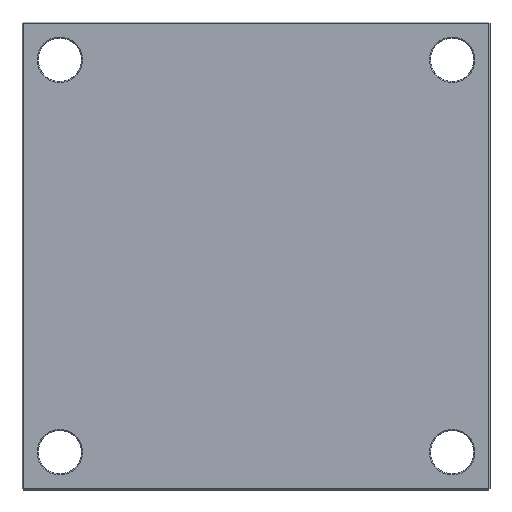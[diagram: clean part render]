
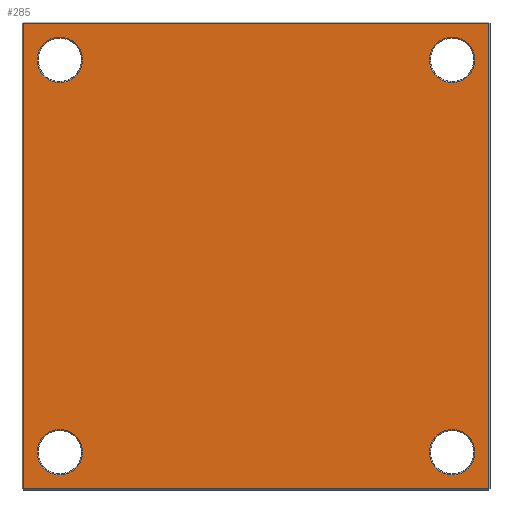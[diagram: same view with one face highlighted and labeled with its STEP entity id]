
A CAD part, front view. The second image highlights one B-rep face of the part: STEP entity #285.
In plain terms, the highlighted planar face has unit normal (0, -1, 0).
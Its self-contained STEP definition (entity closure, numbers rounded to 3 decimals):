
#16 = ORIENTED_EDGE ( 'NONE', *, *, #1422, .T. ) ;
#53 = DIRECTION ( 'NONE',  ( 0., 0., 1. ) ) ;
#55 = ORIENTED_EDGE ( 'NONE', *, *, #1409, .T. ) ;
#60 = VECTOR ( 'NONE', #1943, 1000. ) ;
#66 = DIRECTION ( 'NONE',  ( 0., 1., 0. ) ) ;
#80 = CARTESIAN_POINT ( 'NONE',  ( -187., 0., -187. ) ) ;
#82 = CARTESIAN_POINT ( 'NONE',  ( -187., 0., -208.65 ) ) ;
#98 = DIRECTION ( 'NONE',  ( 0., 1., 0. ) ) ;
#104 = FACE_OUTER_BOUND ( 'NONE', #2038, .T. ) ;
#120 = CARTESIAN_POINT ( 'NONE',  ( 187., 0., 208.65 ) ) ;
#149 = PLANE ( 'NONE',  #1969 ) ;
#156 = FACE_BOUND ( 'NONE', #1606, .T. ) ;
#164 = AXIS2_PLACEMENT_3D ( 'NONE', #1597, #1902, #1443 ) ;
#169 = DIRECTION ( 'NONE',  ( 0., 0., 1. ) ) ;
#177 = VERTEX_POINT ( 'NONE', #1369 ) ;
#201 = AXIS2_PLACEMENT_3D ( 'NONE', #1268, #1280, #1209 ) ;
#203 = ORIENTED_EDGE ( 'NONE', *, *, #1475, .T. ) ;
#234 = CARTESIAN_POINT ( 'NONE',  ( -187., 0., 187. ) ) ;
#242 = LINE ( 'NONE', #986, #2039 ) ;
#268 = ORIENTED_EDGE ( 'NONE', *, *, #800, .T. ) ;
#282 = DIRECTION ( 'NONE',  ( 0., 0., 1. ) ) ;
#284 = CARTESIAN_POINT ( 'NONE',  ( 187., 0., -165.35 ) ) ;
#285 = ADVANCED_FACE ( 'NONE', ( #156, #1576, #521, #1100, #104 ), #149, .F. ) ;
#310 = CIRCLE ( 'NONE', #592, 21.65 ) ;
#327 = EDGE_LOOP ( 'NONE', ( #1423, #55 ) ) ;
#330 = CARTESIAN_POINT ( 'NONE',  ( -187., 0., -187. ) ) ;
#336 = VERTEX_POINT ( 'NONE', #2100 ) ;
#337 = DIRECTION ( 'NONE',  ( 0., 1., 0. ) ) ;
#385 = ORIENTED_EDGE ( 'NONE', *, *, #1392, .T. ) ;
#400 = DIRECTION ( 'NONE',  ( 0., 0., 1. ) ) ;
#406 = CARTESIAN_POINT ( 'NONE',  ( 187., 0., -187. ) ) ;
#460 = DIRECTION ( 'NONE',  ( 0., 0., 1. ) ) ;
#496 = ORIENTED_EDGE ( 'NONE', *, *, #1398, .T. ) ;
#506 = CARTESIAN_POINT ( 'NONE',  ( -222., 0., -222. ) ) ;
#521 = FACE_BOUND ( 'NONE', #964, .T. ) ;
#528 = LINE ( 'NONE', #1781, #60 ) ;
#577 = DIRECTION ( 'NONE',  ( 0., 1., 0. ) ) ;
#579 = AXIS2_PLACEMENT_3D ( 'NONE', #80, #66, #53 ) ;
#592 = AXIS2_PLACEMENT_3D ( 'NONE', #406, #1306, #1273 ) ;
#597 = AXIS2_PLACEMENT_3D ( 'NONE', #234, #98, #2133 ) ;
#600 = AXIS2_PLACEMENT_3D ( 'NONE', #1297, #577, #400 ) ;
#644 = CIRCLE ( 'NONE', #201, 21.65 ) ;
#650 = VECTOR ( 'NONE', #460, 1000. ) ;
#656 = VERTEX_POINT ( 'NONE', #120 ) ;
#708 = DIRECTION ( 'NONE',  ( 0., 0., -1. ) ) ;
#743 = ORIENTED_EDGE ( 'NONE', *, *, #1406, .T. ) ;
#745 = ORIENTED_EDGE ( 'NONE', *, *, #858, .T. ) ;
#800 = EDGE_CURVE ( 'NONE', #2171, #1675, #2124, .T. ) ;
#801 = CIRCLE ( 'NONE', #579, 21.65 ) ;
#818 = EDGE_CURVE ( 'NONE', #2147, #656, #644, .T. ) ;
#850 = CARTESIAN_POINT ( 'NONE',  ( 222., 0., 222. ) ) ;
#858 = EDGE_CURVE ( 'NONE', #902, #1672, #2029, .T. ) ;
#902 = VERTEX_POINT ( 'NONE', #82 ) ;
#964 = EDGE_LOOP ( 'NONE', ( #1131, #743 ) ) ;
#969 = AXIS2_PLACEMENT_3D ( 'NONE', #1452, #1445, #282 ) ;
#977 = DIRECTION ( 'NONE',  ( -1., 0., 0. ) ) ;
#986 = CARTESIAN_POINT ( 'NONE',  ( 0., 0., 222. ) ) ;
#1001 = VERTEX_POINT ( 'NONE', #850 ) ;
#1002 = VECTOR ( 'NONE', #708, 1000. ) ;
#1048 = LINE ( 'NONE', #1696, #1002 ) ;
#1074 = CIRCLE ( 'NONE', #969, 21.65 ) ;
#1100 = FACE_BOUND ( 'NONE', #327, .T. ) ;
#1131 = ORIENTED_EDGE ( 'NONE', *, *, #818, .T. ) ;
#1161 = CIRCLE ( 'NONE', #600, 21.65 ) ;
#1168 = ORIENTED_EDGE ( 'NONE', *, *, #1425, .T. ) ;
#1209 = DIRECTION ( 'NONE',  ( 0., 0., 1. ) ) ;
#1268 = CARTESIAN_POINT ( 'NONE',  ( 187., 0., 187. ) ) ;
#1273 = DIRECTION ( 'NONE',  ( 0., 0., 1. ) ) ;
#1280 = DIRECTION ( 'NONE',  ( 0., 1., 0. ) ) ;
#1297 = CARTESIAN_POINT ( 'NONE',  ( 187., 0., 187. ) ) ;
#1302 = CARTESIAN_POINT ( 'NONE',  ( -187., 0., -165.35 ) ) ;
#1306 = DIRECTION ( 'NONE',  ( 0., 1., 0. ) ) ;
#1369 = CARTESIAN_POINT ( 'NONE',  ( -222., 0., 222. ) ) ;
#1392 = EDGE_CURVE ( 'NONE', #1672, #902, #801, .T. ) ;
#1398 = EDGE_CURVE ( 'NONE', #1675, #2171, #310, .T. ) ;
#1406 = EDGE_CURVE ( 'NONE', #656, #2147, #1161, .T. ) ;
#1409 = EDGE_CURVE ( 'NONE', #336, #1457, #2083, .T. ) ;
#1414 = VERTEX_POINT ( 'NONE', #1483 ) ;
#1422 = EDGE_CURVE ( 'NONE', #1414, #1001, #1583, .T. ) ;
#1423 = ORIENTED_EDGE ( 'NONE', *, *, #1862, .T. ) ;
#1425 = EDGE_CURVE ( 'NONE', #1001, #177, #242, .T. ) ;
#1443 = DIRECTION ( 'NONE',  ( 0., 0., 1. ) ) ;
#1445 = DIRECTION ( 'NONE',  ( 0., 1., 0. ) ) ;
#1450 = EDGE_CURVE ( 'NONE', #177, #1931, #1048, .T. ) ;
#1452 = CARTESIAN_POINT ( 'NONE',  ( -187., 0., 187. ) ) ;
#1457 = VERTEX_POINT ( 'NONE', #2113 ) ;
#1475 = EDGE_CURVE ( 'NONE', #1931, #1414, #528, .T. ) ;
#1477 = AXIS2_PLACEMENT_3D ( 'NONE', #330, #337, #169 ) ;
#1483 = CARTESIAN_POINT ( 'NONE',  ( 222., 0., -222. ) ) ;
#1576 = FACE_BOUND ( 'NONE', #1750, .T. ) ;
#1583 = LINE ( 'NONE', #1870, #650 ) ;
#1597 = CARTESIAN_POINT ( 'NONE',  ( 187., 0., -187. ) ) ;
#1606 = EDGE_LOOP ( 'NONE', ( #745, #385 ) ) ;
#1672 = VERTEX_POINT ( 'NONE', #1302 ) ;
#1675 = VERTEX_POINT ( 'NONE', #284 ) ;
#1696 = CARTESIAN_POINT ( 'NONE',  ( -222., 0., 0. ) ) ;
#1750 = EDGE_LOOP ( 'NONE', ( #268, #496 ) ) ;
#1781 = CARTESIAN_POINT ( 'NONE',  ( 0., 0., -222. ) ) ;
#1803 = CARTESIAN_POINT ( 'NONE',  ( 0., 0., 0. ) ) ;
#1862 = EDGE_CURVE ( 'NONE', #1457, #336, #1074, .T. ) ;
#1870 = CARTESIAN_POINT ( 'NONE',  ( 222., 0., 0. ) ) ;
#1902 = DIRECTION ( 'NONE',  ( 0., 1., 0. ) ) ;
#1931 = VERTEX_POINT ( 'NONE', #506 ) ;
#1943 = DIRECTION ( 'NONE',  ( 1., 0., 0. ) ) ;
#1969 = AXIS2_PLACEMENT_3D ( 'NONE', #1803, #2158, #2177 ) ;
#2029 = CIRCLE ( 'NONE', #1477, 21.65 ) ;
#2038 = EDGE_LOOP ( 'NONE', ( #16, #1168, #2057, #203 ) ) ;
#2039 = VECTOR ( 'NONE', #977, 1000. ) ;
#2057 = ORIENTED_EDGE ( 'NONE', *, *, #1450, .T. ) ;
#2082 = CARTESIAN_POINT ( 'NONE',  ( 187., 0., 165.35 ) ) ;
#2083 = CIRCLE ( 'NONE', #597, 21.65 ) ;
#2089 = CARTESIAN_POINT ( 'NONE',  ( 187., 0., -208.65 ) ) ;
#2100 = CARTESIAN_POINT ( 'NONE',  ( -187., 0., 208.65 ) ) ;
#2113 = CARTESIAN_POINT ( 'NONE',  ( -187., 0., 165.35 ) ) ;
#2124 = CIRCLE ( 'NONE', #164, 21.65 ) ;
#2133 = DIRECTION ( 'NONE',  ( 0., 0., 1. ) ) ;
#2147 = VERTEX_POINT ( 'NONE', #2082 ) ;
#2158 = DIRECTION ( 'NONE',  ( 0., 1., 0. ) ) ;
#2171 = VERTEX_POINT ( 'NONE', #2089 ) ;
#2177 = DIRECTION ( 'NONE',  ( 0., 0., 1. ) ) ;
